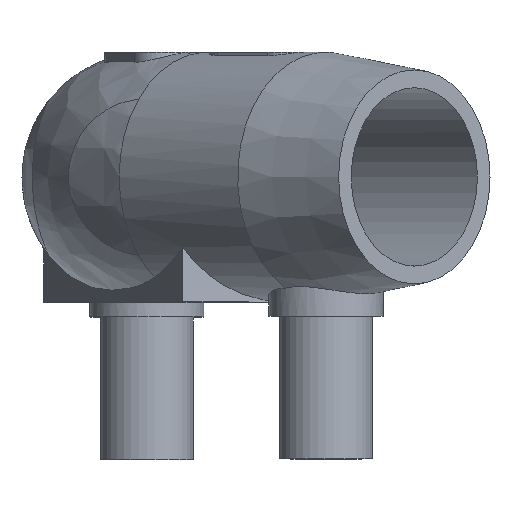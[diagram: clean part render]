
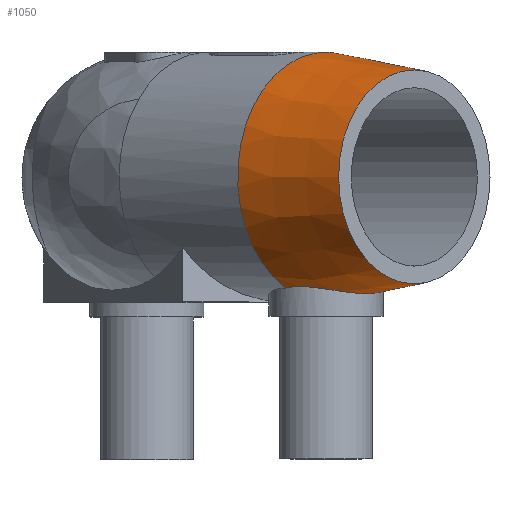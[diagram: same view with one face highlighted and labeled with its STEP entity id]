
A CAD part, top view. The second image highlights one B-rep face of the part: STEP entity #1050.
In plain terms, the highlighted conical face has half-angle 8.13 degrees and reference radius 15 mm.
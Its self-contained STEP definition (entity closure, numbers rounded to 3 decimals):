
#21=CONICAL_SURFACE('',#1163,15.,0.142);
#200=CIRCLE('',#1132,17.5);
#205=CIRCLE('',#1145,15.);
#353=ORIENTED_EDGE('',*,*,#610,.F.);
#354=ORIENTED_EDGE('',*,*,#556,.T.);
#355=ORIENTED_EDGE('',*,*,#587,.F.);
#556=EDGE_CURVE('',#699,#700,#200,.T.);
#587=EDGE_CURVE('',#726,#726,#205,.T.);
#610=EDGE_CURVE('',#699,#700,#818,.T.);
#699=VERTEX_POINT('',#2007);
#700=VERTEX_POINT('',#2008);
#726=VERTEX_POINT('',#2348);
#818=B_SPLINE_CURVE_WITH_KNOTS('',3,(#3038,#3039,#3040,#3041,#3042,#3043,
#3044,#3045,#3046,#3047,#3048),.UNSPECIFIED.,.F.,.F.,(4,1,1,1,1,1,1,1,4),
(0.007,0.01,0.013,0.016,
0.019,0.023,0.026,0.029,
0.032),.UNSPECIFIED.);
#851=EDGE_LOOP('',(#353,#354));
#852=EDGE_LOOP('',(#355));
#956=FACE_BOUND('',#851,.T.);
#957=FACE_BOUND('',#852,.T.);
#1050=ADVANCED_FACE('',(#956,#957),#21,.T.);
#1132=AXIS2_PLACEMENT_3D('',#2006,#1277,#1278);
#1145=AXIS2_PLACEMENT_3D('',#2347,#1309,#1310);
#1163=AXIS2_PLACEMENT_3D('',#3037,#1345,#1346);
#1277=DIRECTION('',(0.707,0.,0.707));
#1278=DIRECTION('',(0.707,0.,-0.707));
#1309=DIRECTION('',(0.707,0.,0.707));
#1310=DIRECTION('',(0.707,0.,-0.707));
#1345=DIRECTION('',(-0.707,0.,-0.707));
#1346=DIRECTION('',(-0.707,0.,0.707));
#2006=CARTESIAN_POINT('',(25.102,0.,25.102));
#2007=CARTESIAN_POINT('',(30.759,-15.564,19.445));
#2008=CARTESIAN_POINT('',(19.445,-15.564,30.759));
#2347=CARTESIAN_POINT('',(37.477,0.,37.477));
#2348=CARTESIAN_POINT('',(48.083,0.,26.87));
#3037=CARTESIAN_POINT('',(37.477,0.,37.477));
#3038=CARTESIAN_POINT('',(30.759,-15.564,19.445));
#3039=CARTESIAN_POINT('',(31.49,-15.398,20.176));
#3040=CARTESIAN_POINT('',(32.691,-15.283,21.965));
#3041=CARTESIAN_POINT('',(33.308,-15.685,25.109));
#3042=CARTESIAN_POINT('',(32.691,-16.203,28.228));
#3043=CARTESIAN_POINT('',(30.909,-16.434,30.91));
#3044=CARTESIAN_POINT('',(28.226,-16.203,32.692));
#3045=CARTESIAN_POINT('',(25.11,-15.685,33.307));
#3046=CARTESIAN_POINT('',(21.972,-15.284,32.692));
#3047=CARTESIAN_POINT('',(20.186,-15.396,31.5));
#3048=CARTESIAN_POINT('',(19.445,-15.564,30.759));
